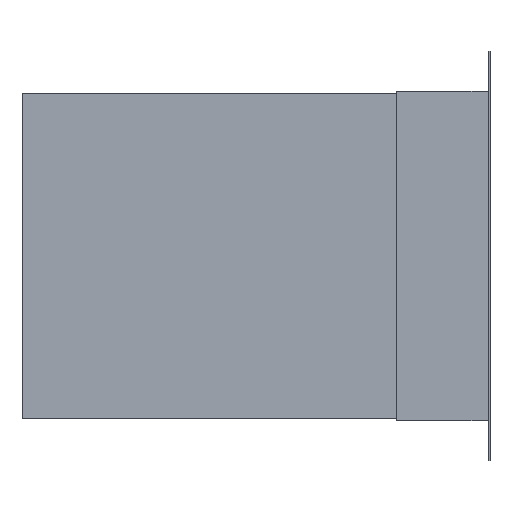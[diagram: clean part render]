
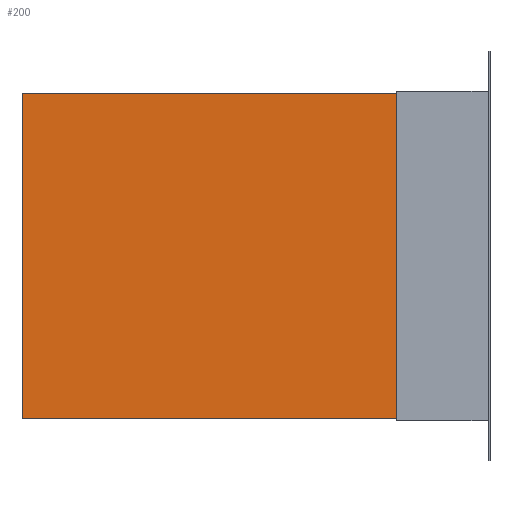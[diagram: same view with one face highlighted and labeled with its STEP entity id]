
A CAD part, left-side view. The second image highlights one B-rep face of the part: STEP entity #200.
In plain terms, the highlighted planar face has unit normal (-1, 0, 0).
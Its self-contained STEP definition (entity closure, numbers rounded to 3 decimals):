
#200=ADVANCED_FACE('',(#418),#419,.F.);
#418=FACE_OUTER_BOUND('',#633,.T.);
#419=PLANE('',#634);
#633=EDGE_LOOP('',(#1189,#1190,#1191,#1192));
#634=AXIS2_PLACEMENT_3D('',#1193,#1194,#1195);
#1189=ORIENTED_EDGE('',*,*,#1308,.T.);
#1190=ORIENTED_EDGE('',*,*,#1397,.F.);
#1191=ORIENTED_EDGE('',*,*,#1446,.T.);
#1192=ORIENTED_EDGE('',*,*,#1443,.F.);
#1193=CARTESIAN_POINT('',(-347.5,500.5,0.0));
#1194=DIRECTION('',(1.0,0.0,0.0));
#1195=DIRECTION('',(0.0,0.0,-1.0));
#1308=EDGE_CURVE('',#1598,#1602,#1604,.T.);
#1397=EDGE_CURVE('',#1724,#1602,#1726,.T.);
#1443=EDGE_CURVE('',#1598,#1782,#1783,.T.);
#1446=EDGE_CURVE('',#1724,#1782,#1786,.T.);
#1598=VERTEX_POINT('',#1978);
#1602=VERTEX_POINT('',#1984);
#1604=LINE('',#1987,#1988);
#1724=VERTEX_POINT('',#2158);
#1726=LINE('',#2161,#2162);
#1782=VERTEX_POINT('',#2239);
#1783=LINE('',#2240,#2241);
#1786=LINE('',#2245,#2246);
#1978=CARTESIAN_POINT('',(-347.5,200.0,-347.5));
#1984=CARTESIAN_POINT('',(-347.5,200.0,347.5));
#1987=CARTESIAN_POINT('',(-347.5,200.0,0.0));
#1988=VECTOR('',#2375,1.0);
#2158=CARTESIAN_POINT('',(-347.5,1000.0,347.5));
#2161=CARTESIAN_POINT('',(-347.5,500.5,347.5));
#2162=VECTOR('',#2463,1.0);
#2239=CARTESIAN_POINT('',(-347.5,1000.0,-347.5));
#2240=CARTESIAN_POINT('',(-347.5,500.5,-347.5));
#2241=VECTOR('',#2509,1.0);
#2245=CARTESIAN_POINT('',(-347.5,1000.0,0.0));
#2246=VECTOR('',#2511,1.0);
#2375=DIRECTION('',(-0.0,0.0,1.0));
#2463=DIRECTION('',(0.0,-1.0,0.0));
#2509=DIRECTION('',(0.0,1.0,0.0));
#2511=DIRECTION('',(0.0,0.0,-1.0));
